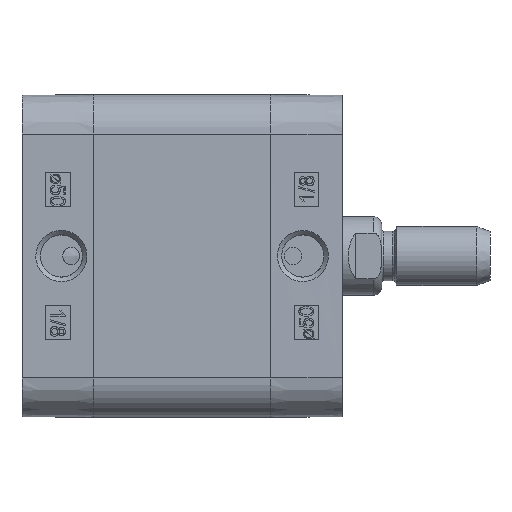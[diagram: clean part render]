
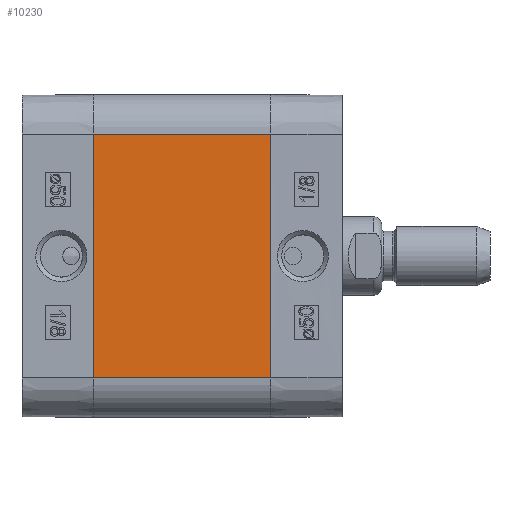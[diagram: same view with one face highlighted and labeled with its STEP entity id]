
A CAD part, left-side view. The second image highlights one B-rep face of the part: STEP entity #10230.
In plain terms, the highlighted planar face has unit normal (-1, 0, 0).
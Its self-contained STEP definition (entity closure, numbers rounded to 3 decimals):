
#5232=CARTESIAN_POINT('',(-32.75,-36.0,24.75));
#5233=VERTEX_POINT('',#5232);
#5240=CARTESIAN_POINT('',(-32.75,-36.0,-24.75));
#5241=VERTEX_POINT('',#5240);
#5242=CARTESIAN_POINT('',(-32.75,-36.0,-24.75));
#5243=DIRECTION('',(0.0,0.0,1.0));
#5244=VECTOR('',#5243,49.5);
#5245=LINE('',#5242,#5244);
#5246=EDGE_CURVE('',#5241,#5233,#5245,.T.);
#10188=CARTESIAN_POINT('',(-32.75,0.0,-24.75));
#10189=VERTEX_POINT('',#10188);
#10190=CARTESIAN_POINT('',(-32.75,0.0,-24.75));
#10191=DIRECTION('',(0.0,-1.0,0.0));
#10192=VECTOR('',#10191,36.0);
#10193=LINE('',#10190,#10192);
#10194=EDGE_CURVE('',#10189,#5241,#10193,.T.);
#10207=CARTESIAN_POINT('',(-32.75,0.0,-24.75));
#10208=DIRECTION('',(-1.0,0.0,0.0));
#10209=DIRECTION('',(0.0,0.0,1.0));
#10210=AXIS2_PLACEMENT_3D('',#10207,#10208,#10209);
#10211=PLANE('',#10210);
#10212=ORIENTED_EDGE('',*,*,#5246,.T.);
#10213=CARTESIAN_POINT('',(-32.75,0.0,24.75));
#10214=VERTEX_POINT('',#10213);
#10215=CARTESIAN_POINT('',(-32.75,0.0,24.75));
#10216=DIRECTION('',(0.0,-1.0,0.0));
#10217=VECTOR('',#10216,36.0);
#10218=LINE('',#10215,#10217);
#10219=EDGE_CURVE('',#10214,#5233,#10218,.T.);
#10220=ORIENTED_EDGE('',*,*,#10219,.F.);
#10221=CARTESIAN_POINT('',(-32.75,0.0,-24.75));
#10222=DIRECTION('',(0.0,0.0,1.0));
#10223=VECTOR('',#10222,49.5);
#10224=LINE('',#10221,#10223);
#10225=EDGE_CURVE('',#10189,#10214,#10224,.T.);
#10226=ORIENTED_EDGE('',*,*,#10225,.F.);
#10227=ORIENTED_EDGE('',*,*,#10194,.T.);
#10228=EDGE_LOOP('',(#10212,#10220,#10226,#10227));
#10229=FACE_OUTER_BOUND('',#10228,.T.);
#10230=ADVANCED_FACE('',(#10229),#10211,.T.);
